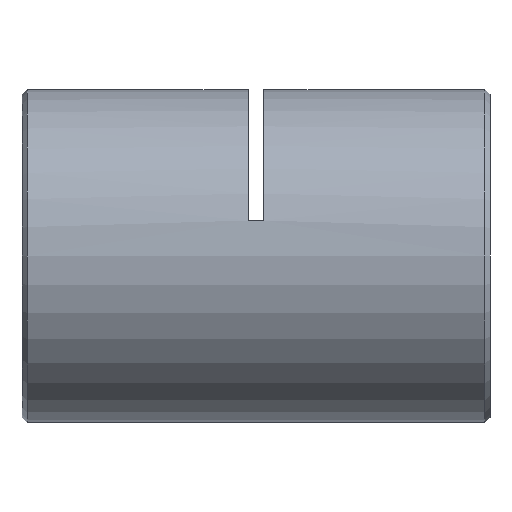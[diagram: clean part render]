
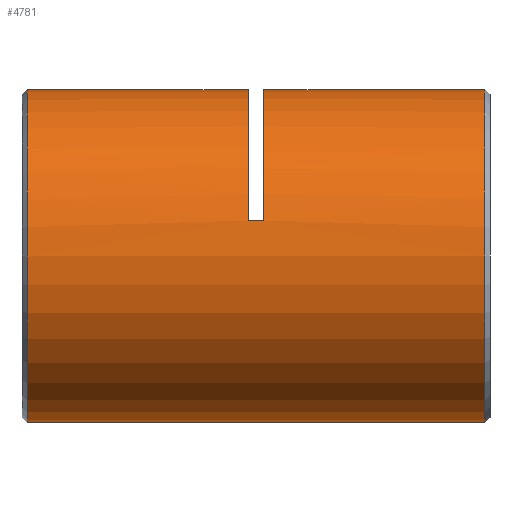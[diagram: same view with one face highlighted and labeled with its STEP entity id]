
A CAD part, left-side view. The second image highlights one B-rep face of the part: STEP entity #4781.
In plain terms, the highlighted cylindrical face has radius 16 mm (diameter 32 mm), a partial arc.
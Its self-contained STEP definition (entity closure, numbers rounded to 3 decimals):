
#16 = ORIENTED_EDGE ( 'NONE', *, *, #5841, .T. ) ;
#31 = CARTESIAN_POINT ( 'NONE',  ( 0., 44.75, 0. ) ) ;
#98 = EDGE_CURVE ( 'NONE', #4361, #4271, #3616, .T. ) ;
#149 = CIRCLE ( 'NONE', #1270, 16. ) ;
#195 = ORIENTED_EDGE ( 'NONE', *, *, #4452, .F. ) ;
#317 = DIRECTION ( 'NONE',  ( 0., 1., 0. ) ) ;
#318 = CARTESIAN_POINT ( 'NONE',  ( 0., 23.5, 0. ) ) ;
#537 = CARTESIAN_POINT ( 'NONE',  ( 0., 44.75, 16. ) ) ;
#542 = ORIENTED_EDGE ( 'NONE', *, *, #5503, .T. ) ;
#547 = VECTOR ( 'NONE', #317, 1000. ) ;
#665 = LINE ( 'NONE', #4533, #3224 ) ;
#863 = CARTESIAN_POINT ( 'NONE',  ( 0., 0.75, 0. ) ) ;
#978 = DIRECTION ( 'NONE',  ( 0., -1., 0. ) ) ;
#1079 = CARTESIAN_POINT ( 'NONE',  ( 0., 23.5, 16. ) ) ;
#1129 = CARTESIAN_POINT ( 'NONE',  ( -15.632, 22., 3.413 ) ) ;
#1158 = FACE_OUTER_BOUND ( 'NONE', #6085, .T. ) ;
#1243 = CARTESIAN_POINT ( 'NONE',  ( 0., 0.75, -16. ) ) ;
#1270 = AXIS2_PLACEMENT_3D ( 'NONE', #863, #2253, #4676 ) ;
#1285 = DIRECTION ( 'NONE',  ( 0., 0., 1. ) ) ;
#1348 = LINE ( 'NONE', #3315, #3844 ) ;
#1655 = CARTESIAN_POINT ( 'NONE',  ( 0., 22., 16. ) ) ;
#1706 = CARTESIAN_POINT ( 'NONE',  ( 0., 22., 0. ) ) ;
#1780 = DIRECTION ( 'NONE',  ( 0., 0., 1. ) ) ;
#2008 = ORIENTED_EDGE ( 'NONE', *, *, #6133, .F. ) ;
#2053 = DIRECTION ( 'NONE',  ( 0., 1., 0. ) ) ;
#2253 = DIRECTION ( 'NONE',  ( 0., 1., 0. ) ) ;
#2395 = VECTOR ( 'NONE', #2053, 1000. ) ;
#2598 = ORIENTED_EDGE ( 'NONE', *, *, #3400, .T. ) ;
#2760 = DIRECTION ( 'NONE',  ( 0., 0., 1. ) ) ;
#3047 = CARTESIAN_POINT ( 'NONE',  ( 0., 44.75, -16. ) ) ;
#3224 = VECTOR ( 'NONE', #5459, 1000. ) ;
#3299 = LINE ( 'NONE', #4713, #547 ) ;
#3315 = CARTESIAN_POINT ( 'NONE',  ( 0., 0., -16. ) ) ;
#3400 = EDGE_CURVE ( 'NONE', #4271, #4637, #6192, .T. ) ;
#3463 = VERTEX_POINT ( 'NONE', #1655 ) ;
#3536 = AXIS2_PLACEMENT_3D ( 'NONE', #318, #3779, #1780 ) ;
#3616 = LINE ( 'NONE', #3986, #2395 ) ;
#3705 = VERTEX_POINT ( 'NONE', #1243 ) ;
#3737 = CYLINDRICAL_SURFACE ( 'NONE', #4960, 16. ) ;
#3779 = DIRECTION ( 'NONE',  ( 0., 1., 0. ) ) ;
#3844 = VECTOR ( 'NONE', #6290, 1000. ) ;
#3885 = VERTEX_POINT ( 'NONE', #5949 ) ;
#3986 = CARTESIAN_POINT ( 'NONE',  ( 0., 0., 16. ) ) ;
#4013 = VERTEX_POINT ( 'NONE', #5724 ) ;
#4126 = CIRCLE ( 'NONE', #4544, 16. ) ;
#4138 = EDGE_CURVE ( 'NONE', #4592, #4013, #3299, .T. ) ;
#4245 = CIRCLE ( 'NONE', #3536, 16. ) ;
#4271 = VERTEX_POINT ( 'NONE', #537 ) ;
#4361 = VERTEX_POINT ( 'NONE', #1079 ) ;
#4452 = EDGE_CURVE ( 'NONE', #4592, #3463, #4126, .T. ) ;
#4533 = CARTESIAN_POINT ( 'NONE',  ( 0., 0., 16. ) ) ;
#4544 = AXIS2_PLACEMENT_3D ( 'NONE', #1706, #5200, #2760 ) ;
#4560 = ORIENTED_EDGE ( 'NONE', *, *, #4138, .T. ) ;
#4592 = VERTEX_POINT ( 'NONE', #1129 ) ;
#4596 = DIRECTION ( 'NONE',  ( 0., 1., 0. ) ) ;
#4637 = VERTEX_POINT ( 'NONE', #3047 ) ;
#4676 = DIRECTION ( 'NONE',  ( 0., 0., 1. ) ) ;
#4713 = CARTESIAN_POINT ( 'NONE',  ( -15.632, 22.75, 3.413 ) ) ;
#4741 = AXIS2_PLACEMENT_3D ( 'NONE', #31, #978, #4887 ) ;
#4781 = ADVANCED_FACE ( 'NONE', ( #1158 ), #3737, .T. ) ;
#4887 = DIRECTION ( 'NONE',  ( 0., 0., -1. ) ) ;
#4960 = AXIS2_PLACEMENT_3D ( 'NONE', #5709, #4596, #1285 ) ;
#5100 = EDGE_CURVE ( 'NONE', #4013, #4361, #4245, .T. ) ;
#5200 = DIRECTION ( 'NONE',  ( 0., 1., 0. ) ) ;
#5312 = ORIENTED_EDGE ( 'NONE', *, *, #98, .T. ) ;
#5459 = DIRECTION ( 'NONE',  ( 0., 1., 0. ) ) ;
#5503 = EDGE_CURVE ( 'NONE', #3705, #3885, #149, .T. ) ;
#5709 = CARTESIAN_POINT ( 'NONE',  ( 0., 0., 0. ) ) ;
#5724 = CARTESIAN_POINT ( 'NONE',  ( -15.632, 23.5, 3.413 ) ) ;
#5841 = EDGE_CURVE ( 'NONE', #3885, #3463, #665, .T. ) ;
#5949 = CARTESIAN_POINT ( 'NONE',  ( 0., 0.75, 16. ) ) ;
#6029 = ORIENTED_EDGE ( 'NONE', *, *, #5100, .T. ) ;
#6085 = EDGE_LOOP ( 'NONE', ( #2008, #542, #16, #195, #4560, #6029, #5312, #2598 ) ) ;
#6133 = EDGE_CURVE ( 'NONE', #3705, #4637, #1348, .T. ) ;
#6192 = CIRCLE ( 'NONE', #4741, 16. ) ;
#6290 = DIRECTION ( 'NONE',  ( 0., 1., 0. ) ) ;
